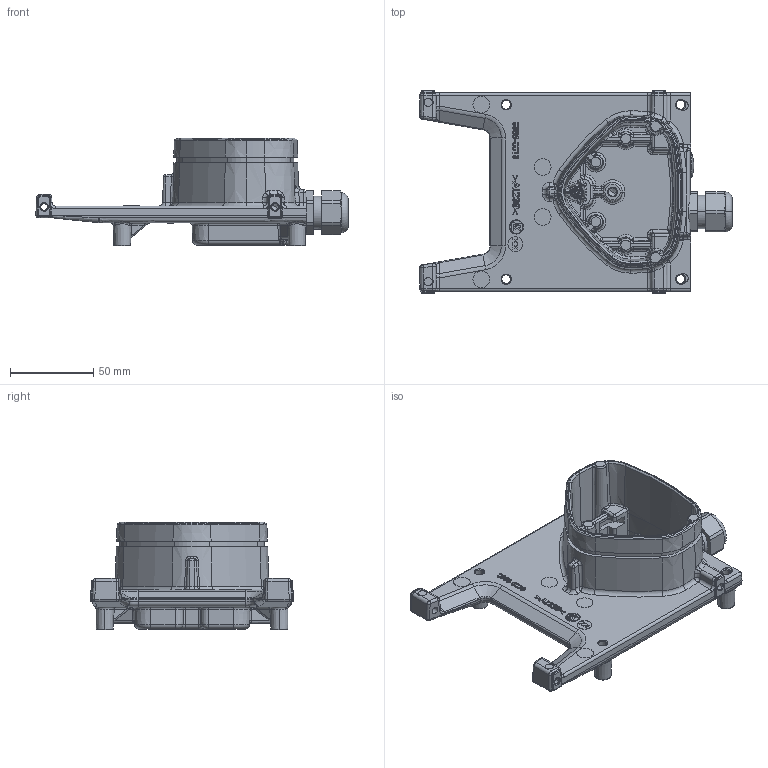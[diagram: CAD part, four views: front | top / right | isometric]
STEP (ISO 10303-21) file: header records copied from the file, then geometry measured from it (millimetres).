
FILE_DESCRIPTION(('CATIA V5 STEP 214'),'2;1');
FILE_NAME('C:\Temp\ddxv6\122143\ADAPTER_BG_B_WANDMONTAGE.stp','2010-11-19T09:24:57+00:00',('Schafer EPA'),('EPA GmbH'),'CATIA Version 5 Release 19 SP 8 (IN-10)','CATIA V5 STEP AP214','none');
FILE_SCHEMA(('AUTOMOTIVE_DESIGN { 1 0 10303 214 1 1 1 1 }'));
Length unit declared in the file: millimetre
Products named in the file (1): 10015344-1-0002A_AllCATPart
Bounding box: 188 x 122.01 x 65 mm (x, y, z)
Volume: 231384.2 mm3; surface area: 79866.7 mm2
Topology: 4 solids, 4 shells, 1826 faces, 4522 edges, 2698 vertices
Faces by surface type: plane 431, bspline 424, cylinder 344, extrusion 296, torus 163, cone 130, sphere 38
Entity records: 80330 total; most frequent: CARTESIAN_POINT 44734, ORIENTED_EDGE 8892, EDGE_CURVE 4446, DIRECTION 4342, VERTEX_POINT 2698, B_SPLINE_CURVE_WITH_KNOTS 2227, EDGE_LOOP 1916, ADVANCED_FACE 1826
